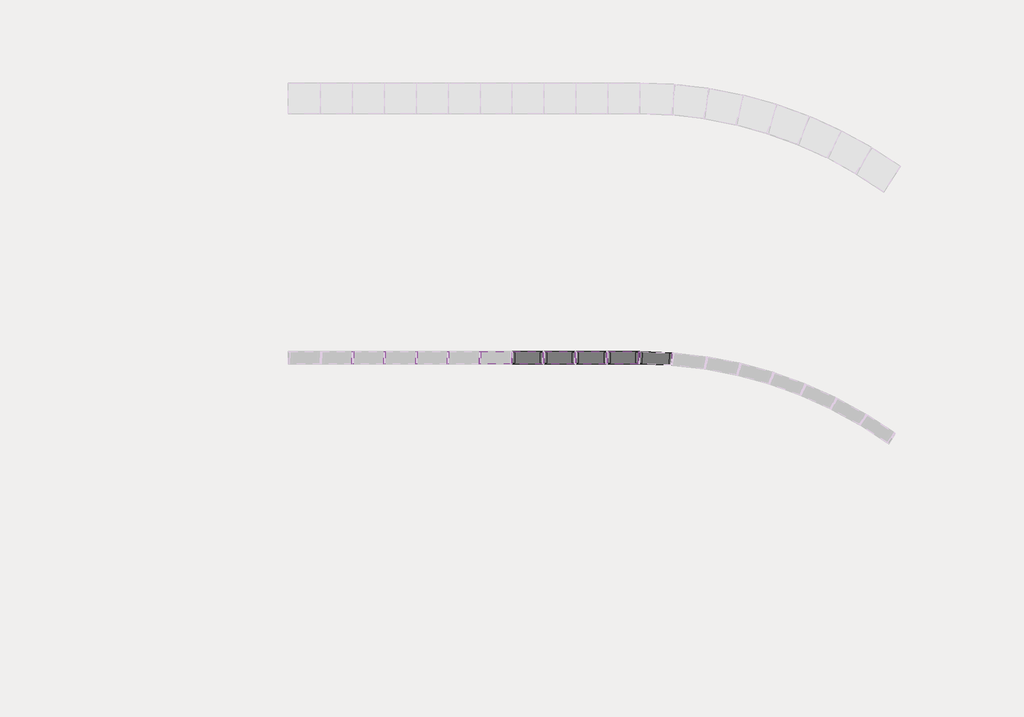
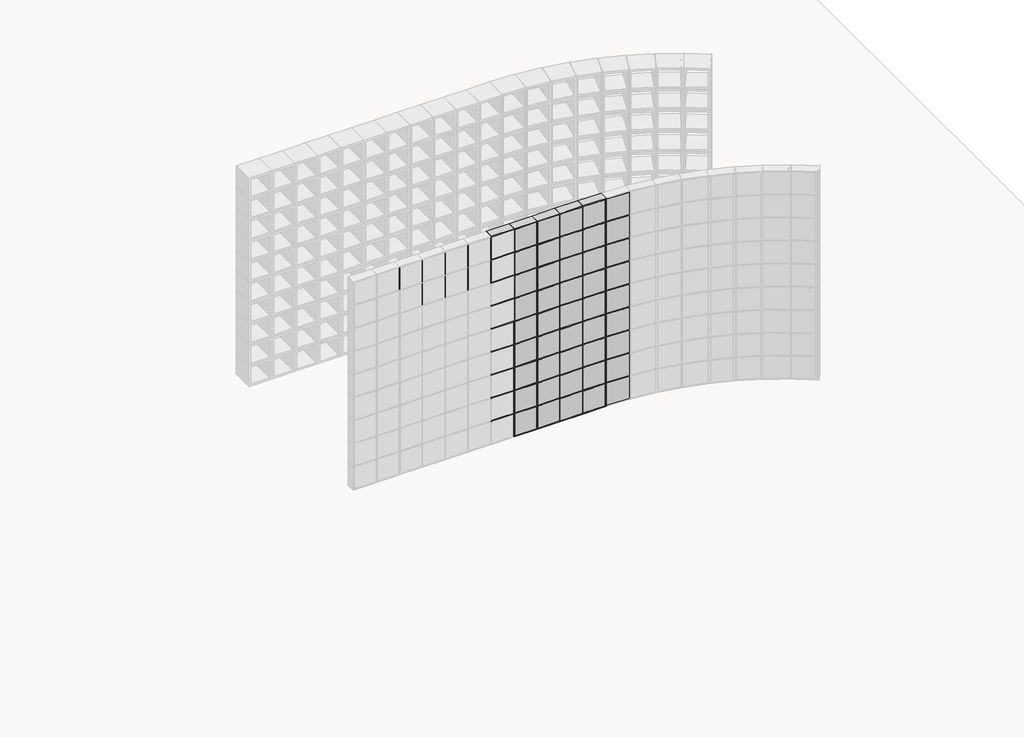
# One storey, part 4 of 15: 84 members, 45 plates.
"""IFC4 building model written with IfcOpenShell, lengths in millimetres."""

from ifc_helpers import new_model, si_unit, origin, place, context, project, spatial, transform, mapped, element, save
from components import rectangular_mullion_junta_tijolo_de_vidro_3e2591da, rectangular_mullion_junta_tijolo_de_vidro_30a91def, rectangular_mullion_junta_tijolo_de_vidro_89802564, rectangular_mullion_junta_tijolo_de_vidro_3e2b090d, rectangular_mullion_junta_tijolo_de_vidro_f3dacb56, rectangular_mullion_junta_tijolo_de_vidro_f51e90fd, rectangular_mullion_junta_tijolo_de_vidro_b0f3a276, rectangular_mullion_junta_tijolo_de_vidro_778310da, pnl_tijolo_de_vidro_a28b313b, pnl_tijolo_de_vidro_ff913bde

model = new_model("IFC4")

# Units and contexts
model_context = context("Model", 3, world=origin())
ifc_project = project(units=[si_unit("LENGTHUNIT", "METRE", prefix="MILLI")], contexts=[model_context])

# Site, building, storey
site = spatial("IfcSite", under=ifc_project)
building = spatial("IfcBuilding", under=site)
storey = spatial("IfcBuildingStorey", under=building, Name="TÉRREO", Elevation=0.0)

# Members
placement = place(None, origin())
rectangular_mullion_junta_tijolo_de_vidro_shape = rectangular_mullion_junta_tijolo_de_vidro_3e2591da(model_context)
element("IfcMember", 1, ObjectType="Rectangular Mullion : JUNTA TIJOLO DE VIDRO", at=placement, inside=storey, context=model_context, shape_type="MappedRepresentation", body=[
    mapped(rectangular_mullion_junta_tijolo_de_vidro_shape, transform((45054.385025, 2916.9852574, 10.0), x_axis=(1.0, 0.0, 0.0), y_axis=(0.0, -1.0, 0.0), z_axis=(0.0, 0.0, -1.0))),
])
element("IfcMember", 2, ObjectType="Rectangular Mullion : JUNTA TIJOLO DE VIDRO", at=placement, inside=storey, context=model_context, shape_type="MappedRepresentation", body=[
    mapped(rectangular_mullion_junta_tijolo_de_vidro_shape, transform((45262.5668432, 2916.9852574, 10.0), x_axis=(1.0, 0.0, 0.0), y_axis=(0.0, -1.0, 0.0), z_axis=(0.0, 0.0, -1.0))),
])
element("IfcMember", 3, ObjectType="Rectangular Mullion : JUNTA TIJOLO DE VIDRO", at=placement, inside=storey, context=model_context, shape_type="MappedRepresentation", body=[
    mapped(rectangular_mullion_junta_tijolo_de_vidro_shape, transform((45470.7486614, 2916.9852574, 10.0), x_axis=(1.0, 0.0, 0.0), y_axis=(0.0, -1.0, 0.0), z_axis=(0.0, 0.0, -1.0))),
])
element("IfcMember", 4, ObjectType="Rectangular Mullion : JUNTA TIJOLO DE VIDRO", at=placement, inside=storey, context=model_context, shape_type="MappedRepresentation", body=[
    mapped(rectangular_mullion_junta_tijolo_de_vidro_shape, transform((45678.9304796, 2916.9852574, 10.0), x_axis=(1.0, 0.0, 0.0), y_axis=(0.0, -1.0, 0.0), z_axis=(0.0, 0.0, -1.0))),
])
element("IfcMember", 5, ObjectType="Rectangular Mullion : JUNTA TIJOLO DE VIDRO", at=placement, inside=storey, context=model_context, shape_type="MappedRepresentation", body=[
    mapped(rectangular_mullion_junta_tijolo_de_vidro_shape, transform((45054.385025, 2916.9852574, 231.1111111), x_axis=(1.0, 0.0, 0.0), y_axis=(0.0, -1.0, 0.0), z_axis=(0.0, 0.0, -1.0))),
])
element("IfcMember", 6, ObjectType="Rectangular Mullion : JUNTA TIJOLO DE VIDRO", at=placement, inside=storey, context=model_context, shape_type="MappedRepresentation", body=[
    mapped(rectangular_mullion_junta_tijolo_de_vidro_shape, transform((45262.5668432, 2916.9852574, 231.1111111), x_axis=(1.0, 0.0, 0.0), y_axis=(0.0, -1.0, 0.0), z_axis=(0.0, 0.0, -1.0))),
])
element("IfcMember", 7, ObjectType="Rectangular Mullion : JUNTA TIJOLO DE VIDRO", at=placement, inside=storey, context=model_context, shape_type="MappedRepresentation", body=[
    mapped(rectangular_mullion_junta_tijolo_de_vidro_shape, transform((45470.7486614, 2916.9852574, 231.1111111), x_axis=(1.0, 0.0, 0.0), y_axis=(0.0, -1.0, 0.0), z_axis=(0.0, 0.0, -1.0))),
])
element("IfcMember", 8, ObjectType="Rectangular Mullion : JUNTA TIJOLO DE VIDRO", at=placement, inside=storey, context=model_context, shape_type="MappedRepresentation", body=[
    mapped(rectangular_mullion_junta_tijolo_de_vidro_shape, transform((45678.9304796, 2916.9852574, 231.1111111), x_axis=(1.0, 0.0, 0.0), y_axis=(0.0, -1.0, 0.0), z_axis=(0.0, 0.0, -1.0))),
])
element("IfcMember", 9, ObjectType="Rectangular Mullion : JUNTA TIJOLO DE VIDRO", at=placement, inside=storey, context=model_context, shape_type="MappedRepresentation", body=[
    mapped(rectangular_mullion_junta_tijolo_de_vidro_shape, transform((45054.385025, 2916.9852574, 452.2222222), x_axis=(1.0, 0.0, 0.0), y_axis=(0.0, -1.0, 0.0), z_axis=(0.0, 0.0, -1.0))),
])
element("IfcMember", 10, ObjectType="Rectangular Mullion : JUNTA TIJOLO DE VIDRO", at=placement, inside=storey, context=model_context, shape_type="MappedRepresentation", body=[
    mapped(rectangular_mullion_junta_tijolo_de_vidro_shape, transform((45262.5668432, 2916.9852574, 452.2222222), x_axis=(1.0, 0.0, 0.0), y_axis=(0.0, -1.0, 0.0), z_axis=(0.0, 0.0, -1.0))),
])
element("IfcMember", 11, ObjectType="Rectangular Mullion : JUNTA TIJOLO DE VIDRO", at=placement, inside=storey, context=model_context, shape_type="MappedRepresentation", body=[
    mapped(rectangular_mullion_junta_tijolo_de_vidro_shape, transform((45470.7486614, 2916.9852574, 452.2222222), x_axis=(1.0, 0.0, 0.0), y_axis=(0.0, -1.0, 0.0), z_axis=(0.0, 0.0, -1.0))),
])
element("IfcMember", 12, ObjectType="Rectangular Mullion : JUNTA TIJOLO DE VIDRO", at=placement, inside=storey, context=model_context, shape_type="MappedRepresentation", body=[
    mapped(rectangular_mullion_junta_tijolo_de_vidro_shape, transform((45678.9304796, 2916.9852574, 452.2222222), x_axis=(1.0, 0.0, 0.0), y_axis=(0.0, -1.0, 0.0), z_axis=(0.0, 0.0, -1.0))),
])
element("IfcMember", 13, ObjectType="Rectangular Mullion : JUNTA TIJOLO DE VIDRO", at=placement, inside=storey, context=model_context, shape_type="MappedRepresentation", body=[
    mapped(rectangular_mullion_junta_tijolo_de_vidro_shape, transform((45054.385025, 2916.9852574, 673.3333333), x_axis=(1.0, 0.0, 0.0), y_axis=(0.0, -1.0, 0.0), z_axis=(0.0, 0.0, -1.0))),
])
element("IfcMember", 14, ObjectType="Rectangular Mullion : JUNTA TIJOLO DE VIDRO", at=placement, inside=storey, context=model_context, shape_type="MappedRepresentation", body=[
    mapped(rectangular_mullion_junta_tijolo_de_vidro_shape, transform((45262.5668432, 2916.9852574, 673.3333333), x_axis=(1.0, 0.0, 0.0), y_axis=(0.0, -1.0, 0.0), z_axis=(0.0, 0.0, -1.0))),
])
element("IfcMember", 15, ObjectType="Rectangular Mullion : JUNTA TIJOLO DE VIDRO", at=placement, inside=storey, context=model_context, shape_type="MappedRepresentation", body=[
    mapped(rectangular_mullion_junta_tijolo_de_vidro_shape, transform((45470.7486614, 2916.9852574, 673.3333333), x_axis=(1.0, 0.0, 0.0), y_axis=(0.0, -1.0, 0.0), z_axis=(0.0, 0.0, -1.0))),
])
element("IfcMember", 16, ObjectType="Rectangular Mullion : JUNTA TIJOLO DE VIDRO", at=placement, inside=storey, context=model_context, shape_type="MappedRepresentation", body=[
    mapped(rectangular_mullion_junta_tijolo_de_vidro_shape, transform((45678.9304796, 2916.9852574, 673.3333333), x_axis=(1.0, 0.0, 0.0), y_axis=(0.0, -1.0, 0.0), z_axis=(0.0, 0.0, -1.0))),
])
element("IfcMember", 17, ObjectType="Rectangular Mullion : JUNTA TIJOLO DE VIDRO", at=placement, inside=storey, context=model_context, shape_type="MappedRepresentation", body=[
    mapped(rectangular_mullion_junta_tijolo_de_vidro_shape, transform((45054.385025, 2916.9852574, 894.4444444), x_axis=(1.0, 0.0, 0.0), y_axis=(0.0, -1.0, 0.0), z_axis=(0.0, 0.0, -1.0))),
])
element("IfcMember", 18, ObjectType="Rectangular Mullion : JUNTA TIJOLO DE VIDRO", at=placement, inside=storey, context=model_context, shape_type="MappedRepresentation", body=[
    mapped(rectangular_mullion_junta_tijolo_de_vidro_shape, transform((44221.6577523, 2916.9852574, 1557.7777778), x_axis=(1.0, 0.0, 0.0), y_axis=(0.0, -1.0, 0.0), z_axis=(0.0, 0.0, -1.0))),
])
element("IfcMember", 19, ObjectType="Rectangular Mullion : JUNTA TIJOLO DE VIDRO", at=placement, inside=storey, context=model_context, shape_type="MappedRepresentation", body=[
    mapped(rectangular_mullion_junta_tijolo_de_vidro_shape, transform((44429.8395705, 2916.9852574, 1557.7777778), x_axis=(1.0, 0.0, 0.0), y_axis=(0.0, -1.0, 0.0), z_axis=(0.0, 0.0, -1.0))),
])
element("IfcMember", 20, ObjectType="Rectangular Mullion : JUNTA TIJOLO DE VIDRO", at=placement, inside=storey, context=model_context, shape_type="MappedRepresentation", body=[
    mapped(rectangular_mullion_junta_tijolo_de_vidro_shape, transform((44638.0213887, 2916.9852574, 1557.7777778), x_axis=(1.0, 0.0, 0.0), y_axis=(0.0, -1.0, 0.0), z_axis=(0.0, 0.0, -1.0))),
])
element("IfcMember", 21, ObjectType="Rectangular Mullion : JUNTA TIJOLO DE VIDRO", at=placement, inside=storey, context=model_context, shape_type="MappedRepresentation", body=[
    mapped(rectangular_mullion_junta_tijolo_de_vidro_shape, transform((44846.2032068, 2916.9852574, 1557.7777778), x_axis=(1.0, 0.0, 0.0), y_axis=(0.0, -1.0, 0.0), z_axis=(0.0, 0.0, -1.0))),
])
element("IfcMember", 22, ObjectType="Rectangular Mullion : JUNTA TIJOLO DE VIDRO", at=placement, inside=storey, context=model_context, shape_type="MappedRepresentation", body=[
    mapped(rectangular_mullion_junta_tijolo_de_vidro_shape, transform((44013.4759341, 2916.9852574, 1778.8888889), x_axis=(1.0, 0.0, 0.0), y_axis=(0.0, -1.0, 0.0), z_axis=(0.0, 0.0, -1.0))),
])
element("IfcMember", 23, ObjectType="Rectangular Mullion : JUNTA TIJOLO DE VIDRO", at=placement, inside=storey, context=model_context, shape_type="MappedRepresentation", body=[
    mapped(rectangular_mullion_junta_tijolo_de_vidro_shape, transform((44221.6577523, 2916.9852574, 1778.8888889), x_axis=(1.0, 0.0, 0.0), y_axis=(0.0, -1.0, 0.0), z_axis=(0.0, 0.0, -1.0))),
])
element("IfcMember", 24, ObjectType="Rectangular Mullion : JUNTA TIJOLO DE VIDRO", at=placement, inside=storey, context=model_context, shape_type="MappedRepresentation", body=[
    mapped(rectangular_mullion_junta_tijolo_de_vidro_shape, transform((44429.8395705, 2916.9852574, 1778.8888889), x_axis=(1.0, 0.0, 0.0), y_axis=(0.0, -1.0, 0.0), z_axis=(0.0, 0.0, -1.0))),
])
element("IfcMember", 25, ObjectType="Rectangular Mullion : JUNTA TIJOLO DE VIDRO", at=placement, inside=storey, context=model_context, shape_type="MappedRepresentation", body=[
    mapped(rectangular_mullion_junta_tijolo_de_vidro_shape, transform((44638.0213887, 2916.9852574, 1778.8888889), x_axis=(1.0, 0.0, 0.0), y_axis=(0.0, -1.0, 0.0), z_axis=(0.0, 0.0, -1.0))),
])
element("IfcMember", 26, ObjectType="Rectangular Mullion : JUNTA TIJOLO DE VIDRO", at=placement, inside=storey, context=model_context, shape_type="MappedRepresentation", body=[
    mapped(rectangular_mullion_junta_tijolo_de_vidro_shape, transform((44846.2032068, 2916.9852574, 1778.8888889), x_axis=(1.0, 0.0, 0.0), y_axis=(0.0, -1.0, 0.0), z_axis=(0.0, 0.0, -1.0))),
])
rectangular_mullion_junta_tijolo_de_vidro_2_shape = rectangular_mullion_junta_tijolo_de_vidro_30a91def(model_context)
element("IfcMember", 27, ObjectType="Rectangular Mullion : JUNTA TIJOLO DE VIDRO", at=placement, inside=storey, context=model_context, shape_type="MappedRepresentation", body=[
    mapped(rectangular_mullion_junta_tijolo_de_vidro_2_shape, transform((45892.1122977, 2916.9852574, 10.0), x_axis=(1.0, 0.0, 0.0), y_axis=(0.0, -1.0, 0.0), z_axis=(0.0, 0.0, -1.0))),
])
rectangular_mullion_junta_tijolo_de_vidro_3_shape = rectangular_mullion_junta_tijolo_de_vidro_89802564(model_context)
element("IfcMember", 28, ObjectType="Rectangular Mullion : JUNTA TIJOLO DE VIDRO", at=placement, inside=storey, context=model_context, shape_type="MappedRepresentation", body=[
    mapped(rectangular_mullion_junta_tijolo_de_vidro_3_shape, transform((45892.1122977, 2916.9852574, 226.1111111), x_axis=(1.0, 0.0, 0.0), y_axis=(0.0, -1.0, 0.0), z_axis=(0.0, 0.0, -1.0))),
])
element("IfcMember", 29, ObjectType="Rectangular Mullion : JUNTA TIJOLO DE VIDRO", at=placement, inside=storey, context=model_context, shape_type="MappedRepresentation", body=[
    mapped(rectangular_mullion_junta_tijolo_de_vidro_3_shape, transform((45892.1122977, 2916.9852574, 447.2222222), x_axis=(1.0, 0.0, 0.0), y_axis=(0.0, -1.0, 0.0), z_axis=(0.0, 0.0, -1.0))),
])
element("IfcMember", 30, ObjectType="Rectangular Mullion : JUNTA TIJOLO DE VIDRO", at=placement, inside=storey, context=model_context, shape_type="MappedRepresentation", body=[
    mapped(rectangular_mullion_junta_tijolo_de_vidro_3_shape, transform((45892.1122977, 2916.9852574, 668.3333333), x_axis=(1.0, 0.0, 0.0), y_axis=(0.0, -1.0, 0.0), z_axis=(0.0, 0.0, -1.0))),
])
element("IfcMember", 31, ObjectType="Rectangular Mullion : JUNTA TIJOLO DE VIDRO", at=placement, inside=storey, context=model_context, shape_type="MappedRepresentation", body=[
    mapped(rectangular_mullion_junta_tijolo_de_vidro_3_shape, transform((45892.1122977, 2916.9852574, 889.4444444), x_axis=(1.0, 0.0, 0.0), y_axis=(0.0, -1.0, 0.0), z_axis=(0.0, 0.0, -1.0))),
])
element("IfcMember", 32, ObjectType="Rectangular Mullion : JUNTA TIJOLO DE VIDRO", at=placement, inside=storey, context=model_context, shape_type="MappedRepresentation", body=[
    mapped(rectangular_mullion_junta_tijolo_de_vidro_3_shape, transform((45892.1122977, 2916.9852574, 1110.5555556), x_axis=(1.0, 0.0, 0.0), y_axis=(0.0, -1.0, 0.0), z_axis=(0.0, 0.0, -1.0))),
])
element("IfcMember", 33, ObjectType="Rectangular Mullion : JUNTA TIJOLO DE VIDRO", at=placement, inside=storey, context=model_context, shape_type="MappedRepresentation", body=[
    mapped(rectangular_mullion_junta_tijolo_de_vidro_3_shape, transform((45892.1122977, 2916.9852574, 1331.6666667), x_axis=(1.0, 0.0, 0.0), y_axis=(0.0, -1.0, 0.0), z_axis=(0.0, 0.0, -1.0))),
])
element("IfcMember", 34, ObjectType="Rectangular Mullion : JUNTA TIJOLO DE VIDRO", at=placement, inside=storey, context=model_context, shape_type="MappedRepresentation", body=[
    mapped(rectangular_mullion_junta_tijolo_de_vidro_3_shape, transform((45892.1122977, 2916.9852574, 1552.7777778), x_axis=(1.0, 0.0, 0.0), y_axis=(0.0, -1.0, 0.0), z_axis=(0.0, 0.0, -1.0))),
])
element("IfcMember", 35, ObjectType="Rectangular Mullion : JUNTA TIJOLO DE VIDRO", at=placement, inside=storey, context=model_context, shape_type="MappedRepresentation", body=[
    mapped(rectangular_mullion_junta_tijolo_de_vidro_2_shape, transform((45892.1122977, 2916.9852574, 1773.8888889), x_axis=(1.0, 0.0, 0.0), y_axis=(0.0, -1.0, 0.0), z_axis=(0.0, 0.0, -1.0))),
])
rectangular_mullion_junta_tijolo_de_vidro_4_shape = rectangular_mullion_junta_tijolo_de_vidro_3e2b090d(model_context)
element("IfcMember", 36, ObjectType="Rectangular Mullion : JUNTA TIJOLO DE VIDRO", at=placement, inside=storey, context=model_context, shape_type="MappedRepresentation", body=[
    mapped(rectangular_mullion_junta_tijolo_de_vidro_4_shape, transform((45054.385025, 2916.9852574, 2000.0), x_axis=(0.0, 0.0, 1.0), y_axis=(0.0, -1.0, 0.0), z_axis=(1.0, 0.0, 0.0))),
])
element("IfcMember", 37, ObjectType="Rectangular Mullion : JUNTA TIJOLO DE VIDRO", at=placement, inside=storey, context=model_context, shape_type="MappedRepresentation", body=[
    mapped(rectangular_mullion_junta_tijolo_de_vidro_4_shape, transform((45262.5668432, 2916.9852574, 2000.0), x_axis=(0.0, 0.0, 1.0), y_axis=(0.0, -1.0, 0.0), z_axis=(1.0, 0.0, 0.0))),
])
element("IfcMember", 38, ObjectType="Rectangular Mullion : JUNTA TIJOLO DE VIDRO", at=placement, inside=storey, context=model_context, shape_type="MappedRepresentation", body=[
    mapped(rectangular_mullion_junta_tijolo_de_vidro_4_shape, transform((45470.7486614, 2916.9852574, 2000.0), x_axis=(0.0, 0.0, 1.0), y_axis=(0.0, -1.0, 0.0), z_axis=(1.0, 0.0, 0.0))),
])
element("IfcMember", 39, ObjectType="Rectangular Mullion : JUNTA TIJOLO DE VIDRO", at=placement, inside=storey, context=model_context, shape_type="MappedRepresentation", body=[
    mapped(rectangular_mullion_junta_tijolo_de_vidro_4_shape, transform((45678.9304796, 2916.9852574, 2000.0), x_axis=(0.0, 0.0, 1.0), y_axis=(0.0, -1.0, 0.0), z_axis=(1.0, 0.0, 0.0))),
])
element("IfcMember", 40, ObjectType="Rectangular Mullion : JUNTA TIJOLO DE VIDRO", at=placement, inside=storey, context=model_context, shape_type="MappedRepresentation", body=[
    mapped(rectangular_mullion_junta_tijolo_de_vidro_4_shape, transform((45054.385025, 2916.9852574, 0.0), x_axis=(0.0, 0.0, -1.0), y_axis=(0.0, -1.0, 0.0), z_axis=(-1.0, 0.0, 0.0))),
])
element("IfcMember", 41, ObjectType="Rectangular Mullion : JUNTA TIJOLO DE VIDRO", at=placement, inside=storey, context=model_context, shape_type="MappedRepresentation", body=[
    mapped(rectangular_mullion_junta_tijolo_de_vidro_4_shape, transform((45262.5668432, 2916.9852574, 0.0), x_axis=(0.0, 0.0, -1.0), y_axis=(0.0, -1.0, 0.0), z_axis=(-1.0, 0.0, 0.0))),
])
element("IfcMember", 42, ObjectType="Rectangular Mullion : JUNTA TIJOLO DE VIDRO", at=placement, inside=storey, context=model_context, shape_type="MappedRepresentation", body=[
    mapped(rectangular_mullion_junta_tijolo_de_vidro_4_shape, transform((45470.7486614, 2916.9852574, 0.0), x_axis=(0.0, 0.0, -1.0), y_axis=(0.0, -1.0, 0.0), z_axis=(-1.0, 0.0, 0.0))),
])
rectangular_mullion_junta_tijolo_de_vidro_5_shape = rectangular_mullion_junta_tijolo_de_vidro_f3dacb56(model_context)
element("IfcMember", 43, ObjectType="Rectangular Mullion : JUNTA TIJOLO DE VIDRO", at=placement, inside=storey, context=model_context, shape_type="MappedRepresentation", body=[
    mapped(rectangular_mullion_junta_tijolo_de_vidro_5_shape, transform((45054.385025, 2916.9852574, 226.1111111), x_axis=(0.0, 0.0, 1.0), y_axis=(0.0, -1.0, 0.0), z_axis=(1.0, 0.0, 0.0))),
])
element("IfcMember", 44, ObjectType="Rectangular Mullion : JUNTA TIJOLO DE VIDRO", at=placement, inside=storey, context=model_context, shape_type="MappedRepresentation", body=[
    mapped(rectangular_mullion_junta_tijolo_de_vidro_5_shape, transform((45262.5668432, 2916.9852574, 226.1111111), x_axis=(0.0, 0.0, 1.0), y_axis=(0.0, -1.0, 0.0), z_axis=(1.0, 0.0, 0.0))),
])
element("IfcMember", 45, ObjectType="Rectangular Mullion : JUNTA TIJOLO DE VIDRO", at=placement, inside=storey, context=model_context, shape_type="MappedRepresentation", body=[
    mapped(rectangular_mullion_junta_tijolo_de_vidro_5_shape, transform((45470.7486614, 2916.9852574, 226.1111111), x_axis=(0.0, 0.0, 1.0), y_axis=(0.0, -1.0, 0.0), z_axis=(1.0, 0.0, 0.0))),
])
element("IfcMember", 46, ObjectType="Rectangular Mullion : JUNTA TIJOLO DE VIDRO", at=placement, inside=storey, context=model_context, shape_type="MappedRepresentation", body=[
    mapped(rectangular_mullion_junta_tijolo_de_vidro_5_shape, transform((45678.9304796, 2916.9852574, 226.1111111), x_axis=(0.0, 0.0, 1.0), y_axis=(0.0, -1.0, 0.0), z_axis=(1.0, 0.0, 0.0))),
])
element("IfcMember", 47, ObjectType="Rectangular Mullion : JUNTA TIJOLO DE VIDRO", at=placement, inside=storey, context=model_context, shape_type="MappedRepresentation", body=[
    mapped(rectangular_mullion_junta_tijolo_de_vidro_5_shape, transform((45054.385025, 2916.9852574, 447.2222222), x_axis=(0.0, 0.0, 1.0), y_axis=(0.0, -1.0, 0.0), z_axis=(1.0, 0.0, 0.0))),
])
element("IfcMember", 48, ObjectType="Rectangular Mullion : JUNTA TIJOLO DE VIDRO", at=placement, inside=storey, context=model_context, shape_type="MappedRepresentation", body=[
    mapped(rectangular_mullion_junta_tijolo_de_vidro_5_shape, transform((45262.5668432, 2916.9852574, 447.2222222), x_axis=(0.0, 0.0, 1.0), y_axis=(0.0, -1.0, 0.0), z_axis=(1.0, 0.0, 0.0))),
])
element("IfcMember", 49, ObjectType="Rectangular Mullion : JUNTA TIJOLO DE VIDRO", at=placement, inside=storey, context=model_context, shape_type="MappedRepresentation", body=[
    mapped(rectangular_mullion_junta_tijolo_de_vidro_5_shape, transform((45470.7486614, 2916.9852574, 447.2222222), x_axis=(0.0, 0.0, 1.0), y_axis=(0.0, -1.0, 0.0), z_axis=(1.0, 0.0, 0.0))),
])
element("IfcMember", 50, ObjectType="Rectangular Mullion : JUNTA TIJOLO DE VIDRO", at=placement, inside=storey, context=model_context, shape_type="MappedRepresentation", body=[
    mapped(rectangular_mullion_junta_tijolo_de_vidro_5_shape, transform((45678.9304796, 2916.9852574, 447.2222222), x_axis=(0.0, 0.0, 1.0), y_axis=(0.0, -1.0, 0.0), z_axis=(1.0, 0.0, 0.0))),
])
element("IfcMember", 51, ObjectType="Rectangular Mullion : JUNTA TIJOLO DE VIDRO", at=placement, inside=storey, context=model_context, shape_type="MappedRepresentation", body=[
    mapped(rectangular_mullion_junta_tijolo_de_vidro_5_shape, transform((45054.385025, 2916.9852574, 668.3333333), x_axis=(0.0, 0.0, 1.0), y_axis=(0.0, -1.0, 0.0), z_axis=(1.0, 0.0, 0.0))),
])
element("IfcMember", 52, ObjectType="Rectangular Mullion : JUNTA TIJOLO DE VIDRO", at=placement, inside=storey, context=model_context, shape_type="MappedRepresentation", body=[
    mapped(rectangular_mullion_junta_tijolo_de_vidro_5_shape, transform((45262.5668432, 2916.9852574, 668.3333333), x_axis=(0.0, 0.0, 1.0), y_axis=(0.0, -1.0, 0.0), z_axis=(1.0, 0.0, 0.0))),
])
element("IfcMember", 53, ObjectType="Rectangular Mullion : JUNTA TIJOLO DE VIDRO", at=placement, inside=storey, context=model_context, shape_type="MappedRepresentation", body=[
    mapped(rectangular_mullion_junta_tijolo_de_vidro_5_shape, transform((45470.7486614, 2916.9852574, 668.3333333), x_axis=(0.0, 0.0, 1.0), y_axis=(0.0, -1.0, 0.0), z_axis=(1.0, 0.0, 0.0))),
])
element("IfcMember", 54, ObjectType="Rectangular Mullion : JUNTA TIJOLO DE VIDRO", at=placement, inside=storey, context=model_context, shape_type="MappedRepresentation", body=[
    mapped(rectangular_mullion_junta_tijolo_de_vidro_5_shape, transform((45678.9304796, 2916.9852574, 668.3333333), x_axis=(0.0, 0.0, 1.0), y_axis=(0.0, -1.0, 0.0), z_axis=(1.0, 0.0, 0.0))),
])
element("IfcMember", 55, ObjectType="Rectangular Mullion : JUNTA TIJOLO DE VIDRO", at=placement, inside=storey, context=model_context, shape_type="MappedRepresentation", body=[
    mapped(rectangular_mullion_junta_tijolo_de_vidro_5_shape, transform((45054.385025, 2916.9852574, 889.4444444), x_axis=(0.0, 0.0, 1.0), y_axis=(0.0, -1.0, 0.0), z_axis=(1.0, 0.0, 0.0))),
])
element("IfcMember", 56, ObjectType="Rectangular Mullion : JUNTA TIJOLO DE VIDRO", at=placement, inside=storey, context=model_context, shape_type="MappedRepresentation", body=[
    mapped(rectangular_mullion_junta_tijolo_de_vidro_5_shape, transform((45262.5668432, 2916.9852574, 889.4444444), x_axis=(0.0, 0.0, 1.0), y_axis=(0.0, -1.0, 0.0), z_axis=(1.0, 0.0, 0.0))),
])
element("IfcMember", 57, ObjectType="Rectangular Mullion : JUNTA TIJOLO DE VIDRO", at=placement, inside=storey, context=model_context, shape_type="MappedRepresentation", body=[
    mapped(rectangular_mullion_junta_tijolo_de_vidro_5_shape, transform((45470.7486614, 2916.9852574, 889.4444444), x_axis=(0.0, 0.0, 1.0), y_axis=(0.0, -1.0, 0.0), z_axis=(1.0, 0.0, 0.0))),
])
element("IfcMember", 58, ObjectType="Rectangular Mullion : JUNTA TIJOLO DE VIDRO", at=placement, inside=storey, context=model_context, shape_type="MappedRepresentation", body=[
    mapped(rectangular_mullion_junta_tijolo_de_vidro_5_shape, transform((45678.9304796, 2916.9852574, 889.4444444), x_axis=(0.0, 0.0, 1.0), y_axis=(0.0, -1.0, 0.0), z_axis=(1.0, 0.0, 0.0))),
])
element("IfcMember", 59, ObjectType="Rectangular Mullion : JUNTA TIJOLO DE VIDRO", at=placement, inside=storey, context=model_context, shape_type="MappedRepresentation", body=[
    mapped(rectangular_mullion_junta_tijolo_de_vidro_5_shape, transform((45054.385025, 2916.9852574, 1110.5555556), x_axis=(0.0, 0.0, 1.0), y_axis=(0.0, -1.0, 0.0), z_axis=(1.0, 0.0, 0.0))),
])
element("IfcMember", 60, ObjectType="Rectangular Mullion : JUNTA TIJOLO DE VIDRO", at=placement, inside=storey, context=model_context, shape_type="MappedRepresentation", body=[
    mapped(rectangular_mullion_junta_tijolo_de_vidro_5_shape, transform((45262.5668432, 2916.9852574, 1110.5555556), x_axis=(0.0, 0.0, 1.0), y_axis=(0.0, -1.0, 0.0), z_axis=(1.0, 0.0, 0.0))),
])
element("IfcMember", 61, ObjectType="Rectangular Mullion : JUNTA TIJOLO DE VIDRO", at=placement, inside=storey, context=model_context, shape_type="MappedRepresentation", body=[
    mapped(rectangular_mullion_junta_tijolo_de_vidro_5_shape, transform((45470.7486614, 2916.9852574, 1110.5555556), x_axis=(0.0, 0.0, 1.0), y_axis=(0.0, -1.0, 0.0), z_axis=(1.0, 0.0, 0.0))),
])
element("IfcMember", 62, ObjectType="Rectangular Mullion : JUNTA TIJOLO DE VIDRO", at=placement, inside=storey, context=model_context, shape_type="MappedRepresentation", body=[
    mapped(rectangular_mullion_junta_tijolo_de_vidro_5_shape, transform((45678.9304796, 2916.9852574, 1110.5555556), x_axis=(0.0, 0.0, 1.0), y_axis=(0.0, -1.0, 0.0), z_axis=(1.0, 0.0, 0.0))),
])
element("IfcMember", 63, ObjectType="Rectangular Mullion : JUNTA TIJOLO DE VIDRO", at=placement, inside=storey, context=model_context, shape_type="MappedRepresentation", body=[
    mapped(rectangular_mullion_junta_tijolo_de_vidro_5_shape, transform((45054.385025, 2916.9852574, 1331.6666667), x_axis=(0.0, 0.0, 1.0), y_axis=(0.0, -1.0, 0.0), z_axis=(1.0, 0.0, 0.0))),
])
element("IfcMember", 64, ObjectType="Rectangular Mullion : JUNTA TIJOLO DE VIDRO", at=placement, inside=storey, context=model_context, shape_type="MappedRepresentation", body=[
    mapped(rectangular_mullion_junta_tijolo_de_vidro_5_shape, transform((45262.5668432, 2916.9852574, 1331.6666667), x_axis=(0.0, 0.0, 1.0), y_axis=(0.0, -1.0, 0.0), z_axis=(1.0, 0.0, 0.0))),
])
element("IfcMember", 65, ObjectType="Rectangular Mullion : JUNTA TIJOLO DE VIDRO", at=placement, inside=storey, context=model_context, shape_type="MappedRepresentation", body=[
    mapped(rectangular_mullion_junta_tijolo_de_vidro_5_shape, transform((45470.7486614, 2916.9852574, 1331.6666667), x_axis=(0.0, 0.0, 1.0), y_axis=(0.0, -1.0, 0.0), z_axis=(1.0, 0.0, 0.0))),
])
element("IfcMember", 66, ObjectType="Rectangular Mullion : JUNTA TIJOLO DE VIDRO", at=placement, inside=storey, context=model_context, shape_type="MappedRepresentation", body=[
    mapped(rectangular_mullion_junta_tijolo_de_vidro_5_shape, transform((45678.9304796, 2916.9852574, 1331.6666667), x_axis=(0.0, 0.0, 1.0), y_axis=(0.0, -1.0, 0.0), z_axis=(1.0, 0.0, 0.0))),
])
element("IfcMember", 67, ObjectType="Rectangular Mullion : JUNTA TIJOLO DE VIDRO", at=placement, inside=storey, context=model_context, shape_type="MappedRepresentation", body=[
    mapped(rectangular_mullion_junta_tijolo_de_vidro_5_shape, transform((45054.385025, 2916.9852574, 1552.7777778), x_axis=(0.0, 0.0, 1.0), y_axis=(0.0, -1.0, 0.0), z_axis=(1.0, 0.0, 0.0))),
])
element("IfcMember", 68, ObjectType="Rectangular Mullion : JUNTA TIJOLO DE VIDRO", at=placement, inside=storey, context=model_context, shape_type="MappedRepresentation", body=[
    mapped(rectangular_mullion_junta_tijolo_de_vidro_5_shape, transform((45262.5668432, 2916.9852574, 1552.7777778), x_axis=(0.0, 0.0, 1.0), y_axis=(0.0, -1.0, 0.0), z_axis=(1.0, 0.0, 0.0))),
])
element("IfcMember", 69, ObjectType="Rectangular Mullion : JUNTA TIJOLO DE VIDRO", at=placement, inside=storey, context=model_context, shape_type="MappedRepresentation", body=[
    mapped(rectangular_mullion_junta_tijolo_de_vidro_5_shape, transform((45470.7486614, 2916.9852574, 1552.7777778), x_axis=(0.0, 0.0, 1.0), y_axis=(0.0, -1.0, 0.0), z_axis=(1.0, 0.0, 0.0))),
])
element("IfcMember", 70, ObjectType="Rectangular Mullion : JUNTA TIJOLO DE VIDRO", at=placement, inside=storey, context=model_context, shape_type="MappedRepresentation", body=[
    mapped(rectangular_mullion_junta_tijolo_de_vidro_5_shape, transform((45678.9304796, 2916.9852574, 1552.7777778), x_axis=(0.0, 0.0, 1.0), y_axis=(0.0, -1.0, 0.0), z_axis=(1.0, 0.0, 0.0))),
])
element("IfcMember", 71, ObjectType="Rectangular Mullion : JUNTA TIJOLO DE VIDRO", at=placement, inside=storey, context=model_context, shape_type="MappedRepresentation", body=[
    mapped(rectangular_mullion_junta_tijolo_de_vidro_5_shape, transform((45054.385025, 2916.9852574, 1773.8888889), x_axis=(0.0, 0.0, 1.0), y_axis=(0.0, -1.0, 0.0), z_axis=(1.0, 0.0, 0.0))),
])
element("IfcMember", 72, ObjectType="Rectangular Mullion : JUNTA TIJOLO DE VIDRO", at=placement, inside=storey, context=model_context, shape_type="MappedRepresentation", body=[
    mapped(rectangular_mullion_junta_tijolo_de_vidro_5_shape, transform((45262.5668432, 2916.9852574, 1773.8888889), x_axis=(0.0, 0.0, 1.0), y_axis=(0.0, -1.0, 0.0), z_axis=(1.0, 0.0, 0.0))),
])
element("IfcMember", 73, ObjectType="Rectangular Mullion : JUNTA TIJOLO DE VIDRO", at=placement, inside=storey, context=model_context, shape_type="MappedRepresentation", body=[
    mapped(rectangular_mullion_junta_tijolo_de_vidro_5_shape, transform((45470.7486614, 2916.9852574, 1773.8888889), x_axis=(0.0, 0.0, 1.0), y_axis=(0.0, -1.0, 0.0), z_axis=(1.0, 0.0, 0.0))),
])
element("IfcMember", 74, ObjectType="Rectangular Mullion : JUNTA TIJOLO DE VIDRO", at=placement, inside=storey, context=model_context, shape_type="MappedRepresentation", body=[
    mapped(rectangular_mullion_junta_tijolo_de_vidro_5_shape, transform((45678.9304796, 2916.9852574, 1773.8888889), x_axis=(0.0, 0.0, 1.0), y_axis=(0.0, -1.0, 0.0), z_axis=(1.0, 0.0, 0.0))),
])
rectangular_mullion_junta_tijolo_de_vidro_6_shape = rectangular_mullion_junta_tijolo_de_vidro_f51e90fd(model_context)
element("IfcMember", 75, ObjectType="Rectangular Mullion : JUNTA TIJOLO DE VIDRO", at=placement, inside=storey, context=model_context, shape_type="MappedRepresentation", body=[
    mapped(rectangular_mullion_junta_tijolo_de_vidro_6_shape, transform((45882.1122977, 2916.9852574, 226.1111111), x_axis=(0.0, 0.0, 1.0), y_axis=(0.0, -1.0, 0.0), z_axis=(1.0, 0.0, 0.0))),
])
element("IfcMember", 76, ObjectType="Rectangular Mullion : JUNTA TIJOLO DE VIDRO", at=placement, inside=storey, context=model_context, shape_type="MappedRepresentation", body=[
    mapped(rectangular_mullion_junta_tijolo_de_vidro_6_shape, transform((45882.1122977, 2916.9852574, 447.2222222), x_axis=(0.0, 0.0, 1.0), y_axis=(0.0, -1.0, 0.0), z_axis=(1.0, 0.0, 0.0))),
])
element("IfcMember", 77, ObjectType="Rectangular Mullion : JUNTA TIJOLO DE VIDRO", at=placement, inside=storey, context=model_context, shape_type="MappedRepresentation", body=[
    mapped(rectangular_mullion_junta_tijolo_de_vidro_6_shape, transform((45882.1122977, 2916.9852574, 668.3333333), x_axis=(0.0, 0.0, 1.0), y_axis=(0.0, -1.0, 0.0), z_axis=(1.0, 0.0, 0.0))),
])
element("IfcMember", 78, ObjectType="Rectangular Mullion : JUNTA TIJOLO DE VIDRO", at=placement, inside=storey, context=model_context, shape_type="MappedRepresentation", body=[
    mapped(rectangular_mullion_junta_tijolo_de_vidro_6_shape, transform((45882.1122977, 2916.9852574, 889.4444444), x_axis=(0.0, 0.0, 1.0), y_axis=(0.0, -1.0, 0.0), z_axis=(1.0, 0.0, 0.0))),
])
element("IfcMember", 79, ObjectType="Rectangular Mullion : JUNTA TIJOLO DE VIDRO", at=placement, inside=storey, context=model_context, shape_type="MappedRepresentation", body=[
    mapped(rectangular_mullion_junta_tijolo_de_vidro_6_shape, transform((45882.1122977, 2916.9852574, 1110.5555556), x_axis=(0.0, 0.0, 1.0), y_axis=(0.0, -1.0, 0.0), z_axis=(1.0, 0.0, 0.0))),
])
element("IfcMember", 80, ObjectType="Rectangular Mullion : JUNTA TIJOLO DE VIDRO", at=placement, inside=storey, context=model_context, shape_type="MappedRepresentation", body=[
    mapped(rectangular_mullion_junta_tijolo_de_vidro_6_shape, transform((45882.1122977, 2916.9852574, 1331.6666667), x_axis=(0.0, 0.0, 1.0), y_axis=(0.0, -1.0, 0.0), z_axis=(1.0, 0.0, 0.0))),
])
element("IfcMember", 81, ObjectType="Rectangular Mullion : JUNTA TIJOLO DE VIDRO", at=placement, inside=storey, context=model_context, shape_type="MappedRepresentation", body=[
    mapped(rectangular_mullion_junta_tijolo_de_vidro_6_shape, transform((45882.1122977, 2916.9852574, 1552.7777778), x_axis=(0.0, 0.0, 1.0), y_axis=(0.0, -1.0, 0.0), z_axis=(1.0, 0.0, 0.0))),
])
element("IfcMember", 82, ObjectType="Rectangular Mullion : JUNTA TIJOLO DE VIDRO", at=placement, inside=storey, context=model_context, shape_type="MappedRepresentation", body=[
    mapped(rectangular_mullion_junta_tijolo_de_vidro_6_shape, transform((45882.1122977, 2916.9852574, 1773.8888889), x_axis=(0.0, 0.0, 1.0), y_axis=(0.0, -1.0, 0.0), z_axis=(1.0, 0.0, 0.0))),
])
rectangular_mullion_junta_tijolo_de_vidro_7_shape = rectangular_mullion_junta_tijolo_de_vidro_b0f3a276(model_context)
element("IfcMember", 83, ObjectType="Rectangular Mullion : JUNTA TIJOLO DE VIDRO", at=placement, inside=storey, context=model_context, shape_type="MappedRepresentation", body=[
    mapped(rectangular_mullion_junta_tijolo_de_vidro_7_shape, transform((45892.1122977, 2916.9852574, 2000.0), x_axis=(0.0, 0.0, 1.0), y_axis=(0.0, -1.0, 0.0), z_axis=(1.0, 0.0, 0.0))),
])
rectangular_mullion_junta_tijolo_de_vidro_8_shape = rectangular_mullion_junta_tijolo_de_vidro_778310da(model_context)
element("IfcMember", 84, ObjectType="Rectangular Mullion : JUNTA TIJOLO DE VIDRO", at=placement, inside=storey, context=model_context, shape_type="MappedRepresentation", body=[
    mapped(rectangular_mullion_junta_tijolo_de_vidro_8_shape, transform((45678.9304796, 2916.9852574, 0.0), x_axis=(0.0, 0.0, -1.0), y_axis=(0.0, -1.0, 0.0), z_axis=(-1.0, 0.0, 0.0))),
])

# Plates
pnl_tijolo_de_vidro_shape = pnl_tijolo_de_vidro_a28b313b(model_context)
element("IfcPlate", 85, ObjectType="pnl - TIJOLO DE VIDRO : e = 8", at=placement, inside=storey, context=model_context, shape_type="MappedRepresentation", body=[
    mapped(pnl_tijolo_de_vidro_shape, transform((45158.4759341, 2916.9852574, 10.0), x_axis=(1.0, 0.0, 0.0), y_axis=(0.0, 1.0, 0.0), z_axis=(0.0, 0.0, 1.0))),
])
element("IfcPlate", 86, ObjectType="pnl - TIJOLO DE VIDRO : e = 8", at=placement, inside=storey, context=model_context, shape_type="MappedRepresentation", body=[
    mapped(pnl_tijolo_de_vidro_shape, transform((45366.6577523, 2916.9852574, 10.0), x_axis=(1.0, 0.0, 0.0), y_axis=(0.0, 1.0, 0.0), z_axis=(0.0, 0.0, 1.0))),
])
element("IfcPlate", 87, ObjectType="pnl - TIJOLO DE VIDRO : e = 8", at=placement, inside=storey, context=model_context, shape_type="MappedRepresentation", body=[
    mapped(pnl_tijolo_de_vidro_shape, transform((45574.8395705, 2916.9852574, 10.0), x_axis=(1.0, 0.0, 0.0), y_axis=(0.0, 1.0, 0.0), z_axis=(0.0, 0.0, 1.0))),
])
element("IfcPlate", 88, ObjectType="pnl - TIJOLO DE VIDRO : e = 8", at=placement, inside=storey, context=model_context, shape_type="MappedRepresentation", body=[
    mapped(pnl_tijolo_de_vidro_shape, transform((45783.0213887, 2916.9852574, 10.0), x_axis=(1.0, 0.0, 0.0), y_axis=(0.0, 1.0, 0.0), z_axis=(0.0, 0.0, 1.0))),
])
element("IfcPlate", 89, ObjectType="pnl - TIJOLO DE VIDRO : e = 8", at=placement, inside=storey, context=model_context, shape_type="MappedRepresentation", body=[
    mapped(pnl_tijolo_de_vidro_shape, transform((45158.4759341, 2916.9852574, 231.1111111), x_axis=(1.0, 0.0, 0.0), y_axis=(0.0, 1.0, 0.0), z_axis=(0.0, 0.0, 1.0))),
])
element("IfcPlate", 90, ObjectType="pnl - TIJOLO DE VIDRO : e = 8", at=placement, inside=storey, context=model_context, shape_type="MappedRepresentation", body=[
    mapped(pnl_tijolo_de_vidro_shape, transform((45366.6577523, 2916.9852574, 231.1111111), x_axis=(1.0, 0.0, 0.0), y_axis=(0.0, 1.0, 0.0), z_axis=(0.0, 0.0, 1.0))),
])
element("IfcPlate", 91, ObjectType="pnl - TIJOLO DE VIDRO : e = 8", at=placement, inside=storey, context=model_context, shape_type="MappedRepresentation", body=[
    mapped(pnl_tijolo_de_vidro_shape, transform((45574.8395705, 2916.9852574, 231.1111111), x_axis=(1.0, 0.0, 0.0), y_axis=(0.0, 1.0, 0.0), z_axis=(0.0, 0.0, 1.0))),
])
element("IfcPlate", 92, ObjectType="pnl - TIJOLO DE VIDRO : e = 8", at=placement, inside=storey, context=model_context, shape_type="MappedRepresentation", body=[
    mapped(pnl_tijolo_de_vidro_shape, transform((45783.0213887, 2916.9852574, 231.1111111), x_axis=(1.0, 0.0, 0.0), y_axis=(0.0, 1.0, 0.0), z_axis=(0.0, 0.0, 1.0))),
])
element("IfcPlate", 93, ObjectType="pnl - TIJOLO DE VIDRO : e = 8", at=placement, inside=storey, context=model_context, shape_type="MappedRepresentation", body=[
    mapped(pnl_tijolo_de_vidro_shape, transform((45158.4759341, 2916.9852574, 452.2222222), x_axis=(1.0, 0.0, 0.0), y_axis=(0.0, 1.0, 0.0), z_axis=(0.0, 0.0, 1.0))),
])
element("IfcPlate", 94, ObjectType="pnl - TIJOLO DE VIDRO : e = 8", at=placement, inside=storey, context=model_context, shape_type="MappedRepresentation", body=[
    mapped(pnl_tijolo_de_vidro_shape, transform((45366.6577523, 2916.9852574, 452.2222222), x_axis=(1.0, 0.0, 0.0), y_axis=(0.0, 1.0, 0.0), z_axis=(0.0, 0.0, 1.0))),
])
element("IfcPlate", 95, ObjectType="pnl - TIJOLO DE VIDRO : e = 8", at=placement, inside=storey, context=model_context, shape_type="MappedRepresentation", body=[
    mapped(pnl_tijolo_de_vidro_shape, transform((45574.8395705, 2916.9852574, 452.2222222), x_axis=(1.0, 0.0, 0.0), y_axis=(0.0, 1.0, 0.0), z_axis=(0.0, 0.0, 1.0))),
])
element("IfcPlate", 96, ObjectType="pnl - TIJOLO DE VIDRO : e = 8", at=placement, inside=storey, context=model_context, shape_type="MappedRepresentation", body=[
    mapped(pnl_tijolo_de_vidro_shape, transform((45783.0213887, 2916.9852574, 452.2222222), x_axis=(1.0, 0.0, 0.0), y_axis=(0.0, 1.0, 0.0), z_axis=(0.0, 0.0, 1.0))),
])
element("IfcPlate", 97, ObjectType="pnl - TIJOLO DE VIDRO : e = 8", at=placement, inside=storey, context=model_context, shape_type="MappedRepresentation", body=[
    mapped(pnl_tijolo_de_vidro_shape, transform((45158.4759341, 2916.9852574, 673.3333333), x_axis=(1.0, 0.0, 0.0), y_axis=(0.0, 1.0, 0.0), z_axis=(0.0, 0.0, 1.0))),
])
element("IfcPlate", 98, ObjectType="pnl - TIJOLO DE VIDRO : e = 8", at=placement, inside=storey, context=model_context, shape_type="MappedRepresentation", body=[
    mapped(pnl_tijolo_de_vidro_shape, transform((45366.6577523, 2916.9852574, 673.3333333), x_axis=(1.0, 0.0, 0.0), y_axis=(0.0, 1.0, 0.0), z_axis=(0.0, 0.0, 1.0))),
])
element("IfcPlate", 99, ObjectType="pnl - TIJOLO DE VIDRO : e = 8", at=placement, inside=storey, context=model_context, shape_type="MappedRepresentation", body=[
    mapped(pnl_tijolo_de_vidro_shape, transform((45574.8395705, 2916.9852574, 673.3333333), x_axis=(1.0, 0.0, 0.0), y_axis=(0.0, 1.0, 0.0), z_axis=(0.0, 0.0, 1.0))),
])
element("IfcPlate", 100, ObjectType="pnl - TIJOLO DE VIDRO : e = 8", at=placement, inside=storey, context=model_context, shape_type="MappedRepresentation", body=[
    mapped(pnl_tijolo_de_vidro_shape, transform((45783.0213887, 2916.9852574, 673.3333333), x_axis=(1.0, 0.0, 0.0), y_axis=(0.0, 1.0, 0.0), z_axis=(0.0, 0.0, 1.0))),
])
element("IfcPlate", 101, ObjectType="pnl - TIJOLO DE VIDRO : e = 8", at=placement, inside=storey, context=model_context, shape_type="MappedRepresentation", body=[
    mapped(pnl_tijolo_de_vidro_shape, transform((45158.4759341, 2916.9852574, 894.4444444), x_axis=(1.0, 0.0, 0.0), y_axis=(0.0, 1.0, 0.0), z_axis=(0.0, 0.0, 1.0))),
])
element("IfcPlate", 102, ObjectType="pnl - TIJOLO DE VIDRO : e = 8", at=placement, inside=storey, context=model_context, shape_type="MappedRepresentation", body=[
    mapped(pnl_tijolo_de_vidro_shape, transform((45366.6577523, 2916.9852574, 894.4444444), x_axis=(1.0, 0.0, 0.0), y_axis=(0.0, 1.0, 0.0), z_axis=(0.0, 0.0, 1.0))),
])
element("IfcPlate", 103, ObjectType="pnl - TIJOLO DE VIDRO : e = 8", at=placement, inside=storey, context=model_context, shape_type="MappedRepresentation", body=[
    mapped(pnl_tijolo_de_vidro_shape, transform((45574.8395705, 2916.9852574, 894.4444444), x_axis=(1.0, 0.0, 0.0), y_axis=(0.0, 1.0, 0.0), z_axis=(0.0, 0.0, 1.0))),
])
element("IfcPlate", 104, ObjectType="pnl - TIJOLO DE VIDRO : e = 8", at=placement, inside=storey, context=model_context, shape_type="MappedRepresentation", body=[
    mapped(pnl_tijolo_de_vidro_shape, transform((45783.0213887, 2916.9852574, 894.4444444), x_axis=(1.0, 0.0, 0.0), y_axis=(0.0, 1.0, 0.0), z_axis=(0.0, 0.0, 1.0))),
])
element("IfcPlate", 105, ObjectType="pnl - TIJOLO DE VIDRO : e = 8", at=placement, inside=storey, context=model_context, shape_type="MappedRepresentation", body=[
    mapped(pnl_tijolo_de_vidro_shape, transform((45158.4759341, 2916.9852574, 1115.5555556), x_axis=(1.0, 0.0, 0.0), y_axis=(0.0, 1.0, 0.0), z_axis=(0.0, 0.0, 1.0))),
])
element("IfcPlate", 106, ObjectType="pnl - TIJOLO DE VIDRO : e = 8", at=placement, inside=storey, context=model_context, shape_type="MappedRepresentation", body=[
    mapped(pnl_tijolo_de_vidro_shape, transform((45366.6577523, 2916.9852574, 1115.5555556), x_axis=(1.0, 0.0, 0.0), y_axis=(0.0, 1.0, 0.0), z_axis=(0.0, 0.0, 1.0))),
])
element("IfcPlate", 107, ObjectType="pnl - TIJOLO DE VIDRO : e = 8", at=placement, inside=storey, context=model_context, shape_type="MappedRepresentation", body=[
    mapped(pnl_tijolo_de_vidro_shape, transform((45574.8395705, 2916.9852574, 1115.5555556), x_axis=(1.0, 0.0, 0.0), y_axis=(0.0, 1.0, 0.0), z_axis=(0.0, 0.0, 1.0))),
])
element("IfcPlate", 108, ObjectType="pnl - TIJOLO DE VIDRO : e = 8", at=placement, inside=storey, context=model_context, shape_type="MappedRepresentation", body=[
    mapped(pnl_tijolo_de_vidro_shape, transform((45783.0213887, 2916.9852574, 1115.5555556), x_axis=(1.0, 0.0, 0.0), y_axis=(0.0, 1.0, 0.0), z_axis=(0.0, 0.0, 1.0))),
])
element("IfcPlate", 109, ObjectType="pnl - TIJOLO DE VIDRO : e = 8", at=placement, inside=storey, context=model_context, shape_type="MappedRepresentation", body=[
    mapped(pnl_tijolo_de_vidro_shape, transform((45158.4759341, 2916.9852574, 1336.6666667), x_axis=(1.0, 0.0, 0.0), y_axis=(0.0, 1.0, 0.0), z_axis=(0.0, 0.0, 1.0))),
])
element("IfcPlate", 110, ObjectType="pnl - TIJOLO DE VIDRO : e = 8", at=placement, inside=storey, context=model_context, shape_type="MappedRepresentation", body=[
    mapped(pnl_tijolo_de_vidro_shape, transform((45366.6577523, 2916.9852574, 1336.6666667), x_axis=(1.0, 0.0, 0.0), y_axis=(0.0, 1.0, 0.0), z_axis=(0.0, 0.0, 1.0))),
])
element("IfcPlate", 111, ObjectType="pnl - TIJOLO DE VIDRO : e = 8", at=placement, inside=storey, context=model_context, shape_type="MappedRepresentation", body=[
    mapped(pnl_tijolo_de_vidro_shape, transform((45574.8395705, 2916.9852574, 1336.6666667), x_axis=(1.0, 0.0, 0.0), y_axis=(0.0, 1.0, 0.0), z_axis=(0.0, 0.0, 1.0))),
])
element("IfcPlate", 112, ObjectType="pnl - TIJOLO DE VIDRO : e = 8", at=placement, inside=storey, context=model_context, shape_type="MappedRepresentation", body=[
    mapped(pnl_tijolo_de_vidro_shape, transform((45783.0213887, 2916.9852574, 1336.6666667), x_axis=(1.0, 0.0, 0.0), y_axis=(0.0, 1.0, 0.0), z_axis=(0.0, 0.0, 1.0))),
])
element("IfcPlate", 113, ObjectType="pnl - TIJOLO DE VIDRO : e = 8", at=placement, inside=storey, context=model_context, shape_type="MappedRepresentation", body=[
    mapped(pnl_tijolo_de_vidro_shape, transform((45158.4759341, 2916.9852574, 1557.7777778), x_axis=(1.0, 0.0, 0.0), y_axis=(0.0, 1.0, 0.0), z_axis=(0.0, 0.0, 1.0))),
])
element("IfcPlate", 114, ObjectType="pnl - TIJOLO DE VIDRO : e = 8", at=placement, inside=storey, context=model_context, shape_type="MappedRepresentation", body=[
    mapped(pnl_tijolo_de_vidro_shape, transform((45366.6577523, 2916.9852574, 1557.7777778), x_axis=(1.0, 0.0, 0.0), y_axis=(0.0, 1.0, 0.0), z_axis=(0.0, 0.0, 1.0))),
])
element("IfcPlate", 115, ObjectType="pnl - TIJOLO DE VIDRO : e = 8", at=placement, inside=storey, context=model_context, shape_type="MappedRepresentation", body=[
    mapped(pnl_tijolo_de_vidro_shape, transform((45574.8395705, 2916.9852574, 1557.7777778), x_axis=(1.0, 0.0, 0.0), y_axis=(0.0, 1.0, 0.0), z_axis=(0.0, 0.0, 1.0))),
])
element("IfcPlate", 116, ObjectType="pnl - TIJOLO DE VIDRO : e = 8", at=placement, inside=storey, context=model_context, shape_type="MappedRepresentation", body=[
    mapped(pnl_tijolo_de_vidro_shape, transform((45783.0213887, 2916.9852574, 1557.7777778), x_axis=(1.0, 0.0, 0.0), y_axis=(0.0, 1.0, 0.0), z_axis=(0.0, 0.0, 1.0))),
])
element("IfcPlate", 117, ObjectType="pnl - TIJOLO DE VIDRO : e = 8", at=placement, inside=storey, context=model_context, shape_type="MappedRepresentation", body=[
    mapped(pnl_tijolo_de_vidro_shape, transform((45158.4759341, 2916.9852574, 1778.8888889), x_axis=(1.0, 0.0, 0.0), y_axis=(0.0, 1.0, 0.0), z_axis=(0.0, 0.0, 1.0))),
])
element("IfcPlate", 118, ObjectType="pnl - TIJOLO DE VIDRO : e = 8", at=placement, inside=storey, context=model_context, shape_type="MappedRepresentation", body=[
    mapped(pnl_tijolo_de_vidro_shape, transform((45366.6577523, 2916.9852574, 1778.8888889), x_axis=(1.0, 0.0, 0.0), y_axis=(0.0, 1.0, 0.0), z_axis=(0.0, 0.0, 1.0))),
])
element("IfcPlate", 119, ObjectType="pnl - TIJOLO DE VIDRO : e = 8", at=placement, inside=storey, context=model_context, shape_type="MappedRepresentation", body=[
    mapped(pnl_tijolo_de_vidro_shape, transform((45574.8395705, 2916.9852574, 1778.8888889), x_axis=(1.0, 0.0, 0.0), y_axis=(0.0, 1.0, 0.0), z_axis=(0.0, 0.0, 1.0))),
])
element("IfcPlate", 120, ObjectType="pnl - TIJOLO DE VIDRO : e = 8", at=placement, inside=storey, context=model_context, shape_type="MappedRepresentation", body=[
    mapped(pnl_tijolo_de_vidro_shape, transform((45783.0213887, 2916.9852574, 1778.8888889), x_axis=(1.0, 0.0, 0.0), y_axis=(0.0, 1.0, 0.0), z_axis=(0.0, 0.0, 1.0))),
])
pnl_tijolo_de_vidro_2_shape = pnl_tijolo_de_vidro_ff913bde(model_context)
element("IfcPlate", 121, ObjectType="pnl - TIJOLO DE VIDRO : e = 8", at=placement, inside=storey, context=model_context, shape_type="MappedRepresentation", body=[
    mapped(pnl_tijolo_de_vidro_2_shape, transform((45997.1903519, 2913.0042345, 10.0), x_axis=(0.9992830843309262, -0.03785917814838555, 0.0), y_axis=(0.03785917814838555, 0.9992830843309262, 0.0), z_axis=(0.0, 0.0, 1.0))),
])
element("IfcPlate", 122, ObjectType="pnl - TIJOLO DE VIDRO : e = 8", at=placement, inside=storey, context=model_context, shape_type="MappedRepresentation", body=[
    mapped(pnl_tijolo_de_vidro_2_shape, transform((45997.1903519, 2913.0042345, 231.1111111), x_axis=(0.9992830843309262, -0.037859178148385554, 0.0), y_axis=(0.037859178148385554, 0.9992830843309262, 0.0), z_axis=(0.0, 0.0, 1.0))),
])
element("IfcPlate", 123, ObjectType="pnl - TIJOLO DE VIDRO : e = 8", at=placement, inside=storey, context=model_context, shape_type="MappedRepresentation", body=[
    mapped(pnl_tijolo_de_vidro_2_shape, transform((45997.1903519, 2913.0042345, 452.2222222), x_axis=(0.9992830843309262, -0.03785917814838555, 0.0), y_axis=(0.03785917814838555, 0.9992830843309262, 0.0), z_axis=(0.0, 0.0, 1.0))),
])
element("IfcPlate", 124, ObjectType="pnl - TIJOLO DE VIDRO : e = 8", at=placement, inside=storey, context=model_context, shape_type="MappedRepresentation", body=[
    mapped(pnl_tijolo_de_vidro_2_shape, transform((45997.1903519, 2913.0042345, 673.3333333), x_axis=(0.9992830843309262, -0.037859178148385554, 0.0), y_axis=(0.037859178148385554, 0.9992830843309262, 0.0), z_axis=(0.0, 0.0, 1.0))),
])
element("IfcPlate", 125, ObjectType="pnl - TIJOLO DE VIDRO : e = 8", at=placement, inside=storey, context=model_context, shape_type="MappedRepresentation", body=[
    mapped(pnl_tijolo_de_vidro_2_shape, transform((45997.1903519, 2913.0042345, 894.4444444), x_axis=(0.9992830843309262, -0.037859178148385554, 0.0), y_axis=(0.037859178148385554, 0.9992830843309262, 0.0), z_axis=(0.0, 0.0, 1.0))),
])
element("IfcPlate", 126, ObjectType="pnl - TIJOLO DE VIDRO : e = 8", at=placement, inside=storey, context=model_context, shape_type="MappedRepresentation", body=[
    mapped(pnl_tijolo_de_vidro_2_shape, transform((45997.1903519, 2913.0042345, 1115.5555556), x_axis=(0.9992830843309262, -0.03785917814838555, 0.0), y_axis=(0.03785917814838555, 0.9992830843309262, 0.0), z_axis=(0.0, 0.0, 1.0))),
])
element("IfcPlate", 127, ObjectType="pnl - TIJOLO DE VIDRO : e = 8", at=placement, inside=storey, context=model_context, shape_type="MappedRepresentation", body=[
    mapped(pnl_tijolo_de_vidro_2_shape, transform((45997.1903519, 2913.0042345, 1336.6666667), x_axis=(0.9992830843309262, -0.037859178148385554, 0.0), y_axis=(0.037859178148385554, 0.9992830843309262, 0.0), z_axis=(0.0, 0.0, 1.0))),
])
element("IfcPlate", 128, ObjectType="pnl - TIJOLO DE VIDRO : e = 8", at=placement, inside=storey, context=model_context, shape_type="MappedRepresentation", body=[
    mapped(pnl_tijolo_de_vidro_2_shape, transform((45997.1903519, 2913.0042345, 1557.7777778), x_axis=(0.9992830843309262, -0.037859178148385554, 0.0), y_axis=(0.037859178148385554, 0.9992830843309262, 0.0), z_axis=(0.0, 0.0, 1.0))),
])
element("IfcPlate", 129, ObjectType="pnl - TIJOLO DE VIDRO : e = 8", at=placement, inside=storey, context=model_context, shape_type="MappedRepresentation", body=[
    mapped(pnl_tijolo_de_vidro_2_shape, transform((45997.1903519, 2913.0042345, 1778.8888889), x_axis=(0.9992830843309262, -0.037859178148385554, 0.0), y_axis=(0.037859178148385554, 0.9992830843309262, 0.0), z_axis=(0.0, 0.0, 1.0))),
])

save(model, "model.ifc")
